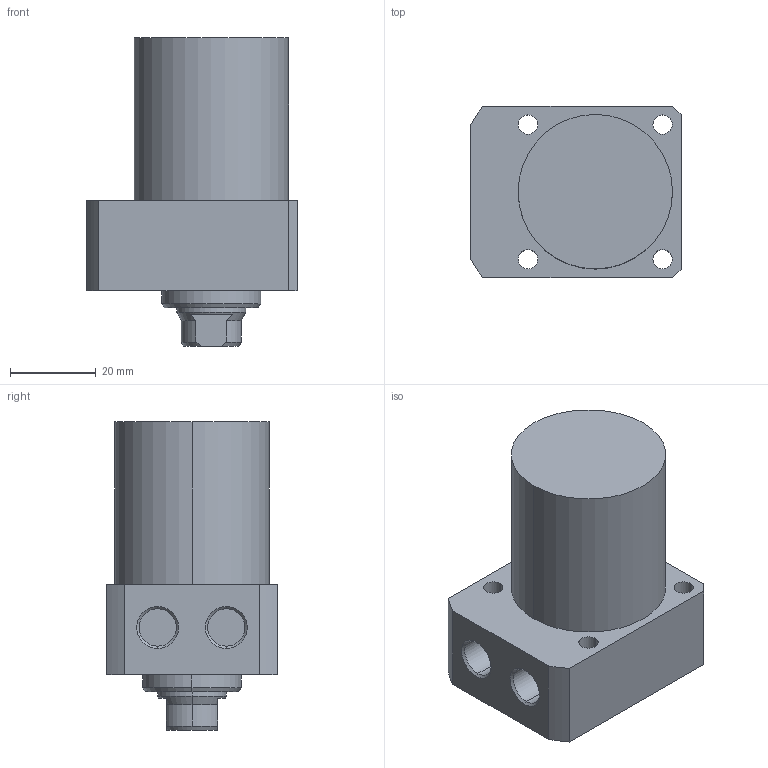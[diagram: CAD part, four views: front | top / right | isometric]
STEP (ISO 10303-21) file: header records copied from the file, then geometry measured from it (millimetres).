
FILE_DESCRIPTION (( 'STEP AP203' ), '1' );
FILE_NAME ('CLLR-036CA-030.STEP', '2019-12-20T00:30:15', ( '' ), ( '' ), 'SwSTEP 2.0', 'SolidWorks 2015', '' );
FILE_SCHEMA (( 'CONFIG_CONTROL_DESIGN' ));
Length unit declared in the file: millimetre
Products named in the file (1): CLLR-036CA-030
Bounding box: 49 x 40 x 72 mm (x, y, z)
Volume: 79382.9 mm3; surface area: 14377.5 mm2
Topology: 1 solids, 1 shells, 63 faces, 149 edges, 94 vertices
Faces by surface type: cylinder 29, plane 19, cone 15
Entity records: 1927 total; most frequent: DIRECTION 340, CARTESIAN_POINT 337, ORIENTED_EDGE 294, EDGE_CURVE 147, AXIS2_PLACEMENT_3D 137, VERTEX_POINT 94, EDGE_LOOP 79, CIRCLE 73
